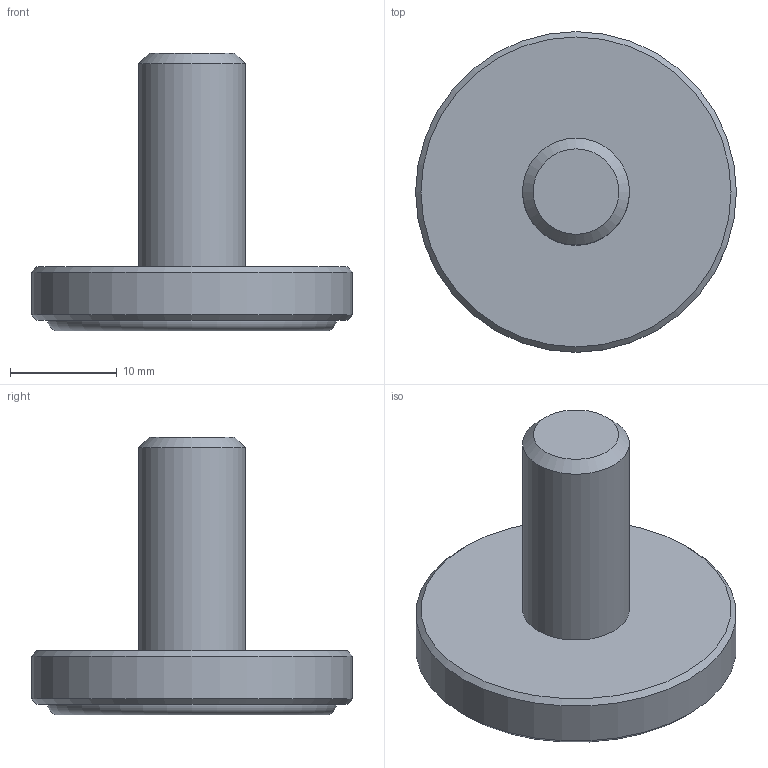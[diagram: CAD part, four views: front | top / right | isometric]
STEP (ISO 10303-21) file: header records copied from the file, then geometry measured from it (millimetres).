
FILE_DESCRIPTION(('STEP AP214'),'1');
FILE_NAME('AJSP-B.stp','2017-07-21T01:21:24',(' '),(' '),'Spatial InterOp 3D',' ',' ');
FILE_SCHEMA(('automotive_design'));
Length unit declared in the file: millimetre
Products named in the file (3): AJSP-B; ねじ: 頭部なし - M10.0 x 26.0
Assembly tree (2 placements, depth 2):
  AJSP-B
    AJSP-B
    ねじ: 頭部なし - M10.0 x 26.0
Bounding box: 30 x 30 x 26 mm (x, y, z)
Volume: 5621.8 mm3; surface area: 2862.7 mm2
Topology: 2 solids, 2 shells, 12 faces, 18 edges, 11 vertices
Faces by surface type: plane 5, cone 3, cylinder 3, torus 1
Full cylindrical faces by diameter (mm): 10 x2, 30 x1
Entity records: 398 total; most frequent: DIRECTION 52, CARTESIAN_POINT 37, AXIS2_PLACEMENT_3D 26, EDGE_LOOP 22, ORIENTED_EDGE 22, FACE_OUTER_BOUND 16, STYLED_ITEM 12, PRESENTATION_STYLE_ASSIGNMENT 12
